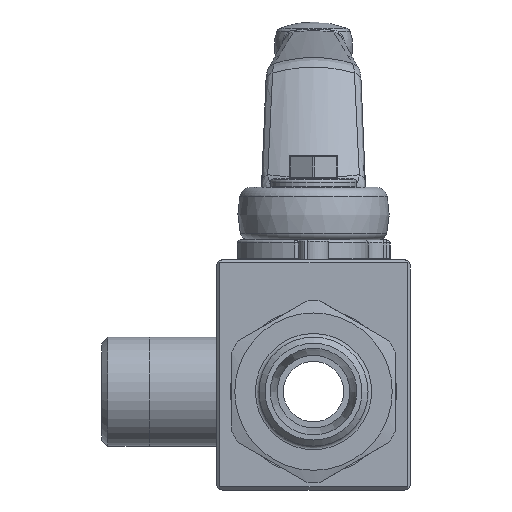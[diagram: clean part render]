
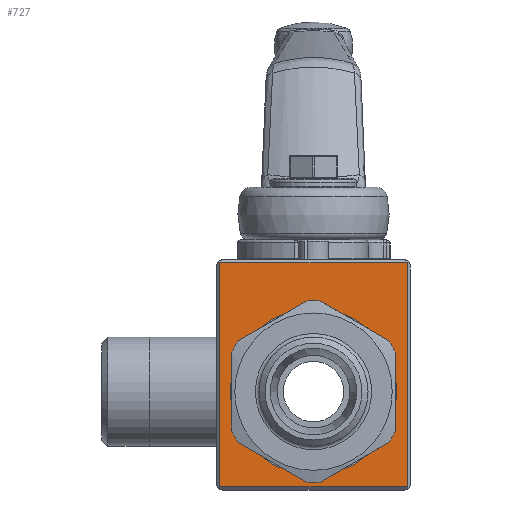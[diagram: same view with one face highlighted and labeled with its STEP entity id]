
A CAD part, front view. The second image highlights one B-rep face of the part: STEP entity #727.
In plain terms, the highlighted planar face has unit normal (0, -1, 0).
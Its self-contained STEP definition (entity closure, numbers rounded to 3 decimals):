
#727 = ADVANCED_FACE( '', ( #1659, #1660 ), #1661, .T. );
#1659 = FACE_OUTER_BOUND( '', #3161, .T. );
#1660 = FACE_BOUND( '', #3162, .T. );
#1661 = PLANE( '', #3163 );
#3161 = EDGE_LOOP( '', ( #5697, #5698, #5699, #5700 ) );
#3162 = EDGE_LOOP( '', ( #5701 ) );
#3163 = AXIS2_PLACEMENT_3D( '', #5702, #5703, #5704 );
#5697 = ORIENTED_EDGE( '', *, *, #8583, .T. );
#5698 = ORIENTED_EDGE( '', *, *, #8584, .T. );
#5699 = ORIENTED_EDGE( '', *, *, #8520, .T. );
#5700 = ORIENTED_EDGE( '', *, *, #8585, .T. );
#5701 = ORIENTED_EDGE( '', *, *, #8586, .T. );
#5702 = CARTESIAN_POINT( '', ( -16., -21.6, -16.25 ) );
#5703 = DIRECTION( '', ( 0., -1., 0. ) );
#5704 = DIRECTION( '', ( 0., 0., -1. ) );
#8520 = EDGE_CURVE( '', #9969, #9977, #9979, .T. );
#8583 = EDGE_CURVE( '', #10080, #10081, #10082, .T. );
#8584 = EDGE_CURVE( '', #10081, #9969, #10083, .T. );
#8585 = EDGE_CURVE( '', #9977, #10080, #10084, .T. );
#8586 = EDGE_CURVE( '', #10085, #10085, #10086, .T. );
#9969 = VERTEX_POINT( '', #12266 );
#9977 = VERTEX_POINT( '', #12276 );
#9979 = LINE( '', #12279, #12280 );
#10080 = VERTEX_POINT( '', #12416 );
#10081 = VERTEX_POINT( '', #12417 );
#10082 = LINE( '', #12418, #12419 );
#10083 = LINE( '', #12420, #12421 );
#10084 = LINE( '', #12422, #12423 );
#10085 = VERTEX_POINT( '', #12424 );
#10086 = CIRCLE( '', #12425, 13.75 );
#12266 = CARTESIAN_POINT( '', ( 15.5, -21.6, 21.25 ) );
#12276 = CARTESIAN_POINT( '', ( -15.5, -21.6, 21.25 ) );
#12279 = CARTESIAN_POINT( '', ( -16., -21.6, 21.25 ) );
#12280 = VECTOR( '', #15027, 1000. );
#12416 = CARTESIAN_POINT( '', ( -15.5, -21.6, -15.75 ) );
#12417 = CARTESIAN_POINT( '', ( 15.5, -21.6, -15.75 ) );
#12418 = CARTESIAN_POINT( '', ( 16., -21.6, -15.75 ) );
#12419 = VECTOR( '', #15129, 1000. );
#12420 = CARTESIAN_POINT( '', ( 15.5, -21.6, 21.75 ) );
#12421 = VECTOR( '', #15130, 1000. );
#12422 = CARTESIAN_POINT( '', ( -15.5, -21.6, -16.25 ) );
#12423 = VECTOR( '', #15131, 1000. );
#12424 = CARTESIAN_POINT( '', ( 13.75, -21.6, 0. ) );
#12425 = AXIS2_PLACEMENT_3D( '', #15132, #15133, #15134 );
#15027 = DIRECTION( '', ( -1., 0., 0. ) );
#15129 = DIRECTION( '', ( 1., 0., 0. ) );
#15130 = DIRECTION( '', ( 0., 0., 1. ) );
#15131 = DIRECTION( '', ( 0., 0., -1. ) );
#15132 = CARTESIAN_POINT( '', ( 0., -21.6, 0. ) );
#15133 = DIRECTION( '', ( 0., 1., 0. ) );
#15134 = DIRECTION( '', ( 1., 0., 0. ) );
